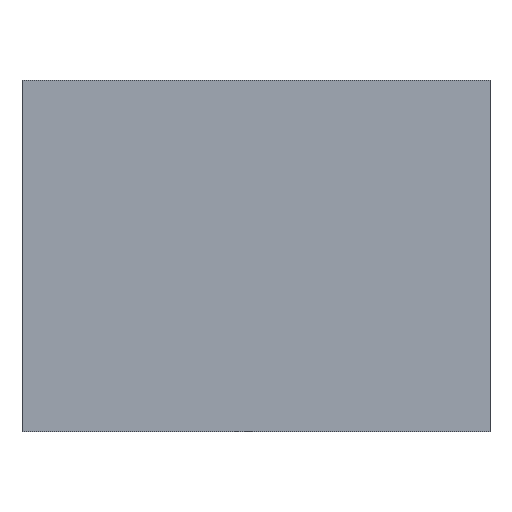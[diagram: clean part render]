
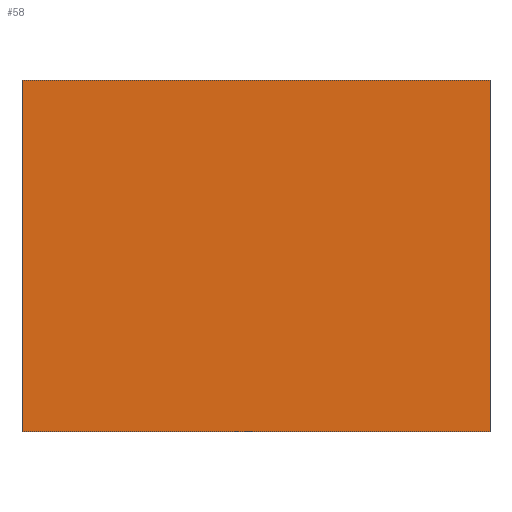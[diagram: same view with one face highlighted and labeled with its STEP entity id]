
A CAD part, left-side view. The second image highlights one B-rep face of the part: STEP entity #58.
In plain terms, the highlighted planar face has unit normal (-1, 0, 0).
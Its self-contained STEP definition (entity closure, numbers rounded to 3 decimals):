
#58 = ADVANCED_FACE('',(#59),#73,.F.);
#59 = FACE_BOUND('',#60,.F.);
#60 = EDGE_LOOP('',(#61,#96,#124,#152));
#61 = ORIENTED_EDGE('',*,*,#62,.F.);
#62 = EDGE_CURVE('',#63,#65,#67,.T.);
#63 = VERTEX_POINT('',#64);
#64 = CARTESIAN_POINT('',(0.,0.,0.));
#65 = VERTEX_POINT('',#66);
#66 = CARTESIAN_POINT('',(0.,0.,6.));
#67 = SURFACE_CURVE('',#68,(#72,#84),.PCURVE_S1.);
#68 = LINE('',#69,#70);
#69 = CARTESIAN_POINT('',(0.,0.,0.));
#70 = VECTOR('',#71,1.);
#71 = DIRECTION('',(0.,0.,1.));
#72 = PCURVE('',#73,#78);
#73 = PLANE('',#74);
#74 = AXIS2_PLACEMENT_3D('',#75,#76,#77);
#75 = CARTESIAN_POINT('',(0.,0.,0.));
#76 = DIRECTION('',(1.,0.,-0.));
#77 = DIRECTION('',(0.,0.,1.));
#78 = DEFINITIONAL_REPRESENTATION('',(#79),#83);
#79 = LINE('',#80,#81);
#80 = CARTESIAN_POINT('',(0.,0.));
#81 = VECTOR('',#82,1.);
#82 = DIRECTION('',(1.,0.));
#83 = ( GEOMETRIC_REPRESENTATION_CONTEXT(2) 
PARAMETRIC_REPRESENTATION_CONTEXT() REPRESENTATION_CONTEXT('2D SPACE',''
  ) );
#84 = PCURVE('',#85,#90);
#85 = PLANE('',#86);
#86 = AXIS2_PLACEMENT_3D('',#87,#88,#89);
#87 = CARTESIAN_POINT('',(0.,0.,0.));
#88 = DIRECTION('',(-0.,1.,0.));
#89 = DIRECTION('',(0.,0.,1.));
#90 = DEFINITIONAL_REPRESENTATION('',(#91),#95);
#91 = LINE('',#92,#93);
#92 = CARTESIAN_POINT('',(0.,0.));
#93 = VECTOR('',#94,1.);
#94 = DIRECTION('',(1.,0.));
#95 = ( GEOMETRIC_REPRESENTATION_CONTEXT(2) 
PARAMETRIC_REPRESENTATION_CONTEXT() REPRESENTATION_CONTEXT('2D SPACE',''
  ) );
#96 = ORIENTED_EDGE('',*,*,#97,.T.);
#97 = EDGE_CURVE('',#63,#98,#100,.T.);
#98 = VERTEX_POINT('',#99);
#99 = CARTESIAN_POINT('',(0.,8.,0.));
#100 = SURFACE_CURVE('',#101,(#105,#112),.PCURVE_S1.);
#101 = LINE('',#102,#103);
#102 = CARTESIAN_POINT('',(0.,0.,0.));
#103 = VECTOR('',#104,1.);
#104 = DIRECTION('',(-0.,1.,0.));
#105 = PCURVE('',#73,#106);
#106 = DEFINITIONAL_REPRESENTATION('',(#107),#111);
#107 = LINE('',#108,#109);
#108 = CARTESIAN_POINT('',(0.,0.));
#109 = VECTOR('',#110,1.);
#110 = DIRECTION('',(0.,-1.));
#111 = ( GEOMETRIC_REPRESENTATION_CONTEXT(2) 
PARAMETRIC_REPRESENTATION_CONTEXT() REPRESENTATION_CONTEXT('2D SPACE',''
  ) );
#112 = PCURVE('',#113,#118);
#113 = PLANE('',#114);
#114 = AXIS2_PLACEMENT_3D('',#115,#116,#117);
#115 = CARTESIAN_POINT('',(0.,0.,0.));
#116 = DIRECTION('',(0.,0.,1.));
#117 = DIRECTION('',(1.,0.,-0.));
#118 = DEFINITIONAL_REPRESENTATION('',(#119),#123);
#119 = LINE('',#120,#121);
#120 = CARTESIAN_POINT('',(0.,0.));
#121 = VECTOR('',#122,1.);
#122 = DIRECTION('',(0.,1.));
#123 = ( GEOMETRIC_REPRESENTATION_CONTEXT(2) 
PARAMETRIC_REPRESENTATION_CONTEXT() REPRESENTATION_CONTEXT('2D SPACE',''
  ) );
#124 = ORIENTED_EDGE('',*,*,#125,.T.);
#125 = EDGE_CURVE('',#98,#126,#128,.T.);
#126 = VERTEX_POINT('',#127);
#127 = CARTESIAN_POINT('',(0.,8.,6.));
#128 = SURFACE_CURVE('',#129,(#133,#140),.PCURVE_S1.);
#129 = LINE('',#130,#131);
#130 = CARTESIAN_POINT('',(0.,8.,0.));
#131 = VECTOR('',#132,1.);
#132 = DIRECTION('',(0.,0.,1.));
#133 = PCURVE('',#73,#134);
#134 = DEFINITIONAL_REPRESENTATION('',(#135),#139);
#135 = LINE('',#136,#137);
#136 = CARTESIAN_POINT('',(0.,-8.));
#137 = VECTOR('',#138,1.);
#138 = DIRECTION('',(1.,0.));
#139 = ( GEOMETRIC_REPRESENTATION_CONTEXT(2) 
PARAMETRIC_REPRESENTATION_CONTEXT() REPRESENTATION_CONTEXT('2D SPACE',''
  ) );
#140 = PCURVE('',#141,#146);
#141 = PLANE('',#142);
#142 = AXIS2_PLACEMENT_3D('',#143,#144,#145);
#143 = CARTESIAN_POINT('',(0.,8.,0.));
#144 = DIRECTION('',(-0.,1.,0.));
#145 = DIRECTION('',(0.,0.,1.));
#146 = DEFINITIONAL_REPRESENTATION('',(#147),#151);
#147 = LINE('',#148,#149);
#148 = CARTESIAN_POINT('',(0.,0.));
#149 = VECTOR('',#150,1.);
#150 = DIRECTION('',(1.,0.));
#151 = ( GEOMETRIC_REPRESENTATION_CONTEXT(2) 
PARAMETRIC_REPRESENTATION_CONTEXT() REPRESENTATION_CONTEXT('2D SPACE',''
  ) );
#152 = ORIENTED_EDGE('',*,*,#153,.F.);
#153 = EDGE_CURVE('',#65,#126,#154,.T.);
#154 = SURFACE_CURVE('',#155,(#159,#166),.PCURVE_S1.);
#155 = LINE('',#156,#157);
#156 = CARTESIAN_POINT('',(0.,0.,6.));
#157 = VECTOR('',#158,1.);
#158 = DIRECTION('',(-0.,1.,0.));
#159 = PCURVE('',#73,#160);
#160 = DEFINITIONAL_REPRESENTATION('',(#161),#165);
#161 = LINE('',#162,#163);
#162 = CARTESIAN_POINT('',(6.,0.));
#163 = VECTOR('',#164,1.);
#164 = DIRECTION('',(0.,-1.));
#165 = ( GEOMETRIC_REPRESENTATION_CONTEXT(2) 
PARAMETRIC_REPRESENTATION_CONTEXT() REPRESENTATION_CONTEXT('2D SPACE',''
  ) );
#166 = PCURVE('',#167,#172);
#167 = PLANE('',#168);
#168 = AXIS2_PLACEMENT_3D('',#169,#170,#171);
#169 = CARTESIAN_POINT('',(0.,0.,6.));
#170 = DIRECTION('',(0.,0.,1.));
#171 = DIRECTION('',(1.,0.,-0.));
#172 = DEFINITIONAL_REPRESENTATION('',(#173),#177);
#173 = LINE('',#174,#175);
#174 = CARTESIAN_POINT('',(0.,0.));
#175 = VECTOR('',#176,1.);
#176 = DIRECTION('',(0.,1.));
#177 = ( GEOMETRIC_REPRESENTATION_CONTEXT(2) 
PARAMETRIC_REPRESENTATION_CONTEXT() REPRESENTATION_CONTEXT('2D SPACE',''
  ) );
